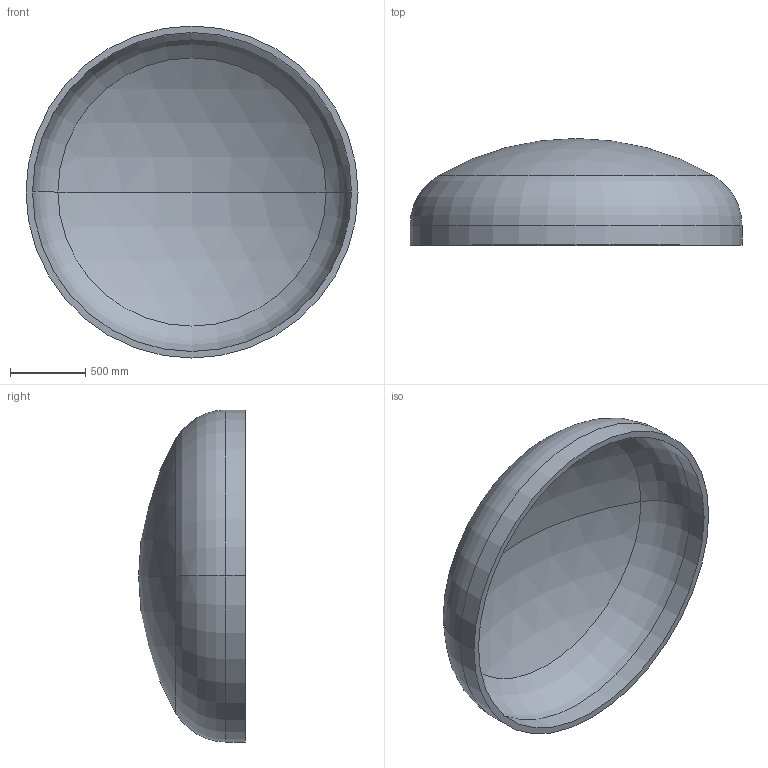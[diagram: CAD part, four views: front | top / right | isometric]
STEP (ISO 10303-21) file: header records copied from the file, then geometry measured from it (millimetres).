
FILE_DESCRIPTION (( 'STEP AP203' ), '1' );
FILE_NAME ('DIN 28013 Korbbogenform_-_Boden DIN 28013 - 2200 x 130 - I - s=43.step', '2016-07-01T14:36:52', ( '' ), ( '' ), 'SwSTEP 2.0', 'SolidWorks 2013', '' );
FILE_SCHEMA (( 'CONFIG_CONTROL_DESIGN' ));
Length unit declared in the file: millimetre
Products named in the file (1): DIN 28013 Korbbogenform_-_Boden DIN 28013 - 2200 x 130 - I - s=43
Bounding box: 2200 x 707.31 x 2200 mm (x, y, z)
Volume: 258668153.3 mm3; surface area: 12326331.4 mm2
Topology: 1 solids, 1 shells, 13 faces, 24 edges, 14 vertices
Faces by surface type: torus 4, cylinder 4, sphere 4, plane 1
Entity records: 407 total; most frequent: DIRECTION 72, CARTESIAN_POINT 52, ORIENTED_EDGE 48, AXIS2_PLACEMENT_3D 34, EDGE_CURVE 24, CIRCLE 20, EDGE_LOOP 14, VERTEX_POINT 14
